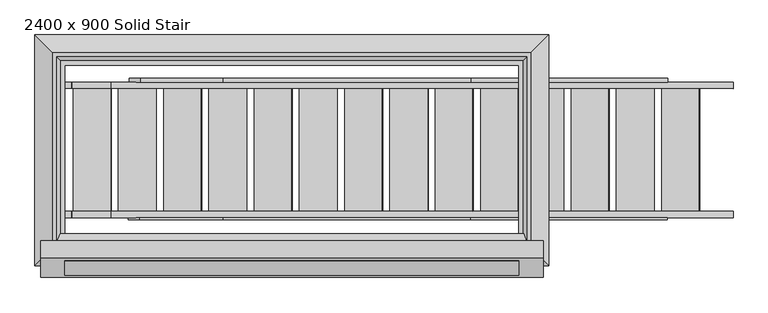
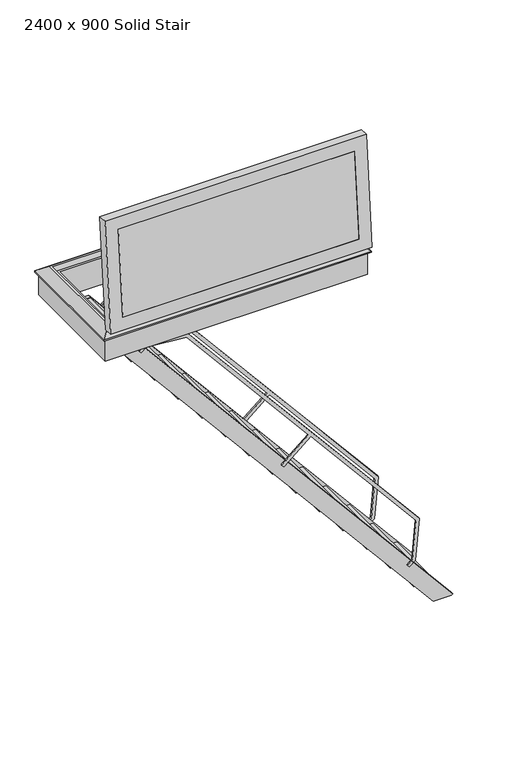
"""IFC4 building model written with IfcOpenShell, lengths in millimetres: proxy geometry, 5_Topaccess_dakluik_2400x900_Staka : 2400 x 900 Solid Stair."""

from ifc_helpers import new_model, si_unit, point, frame, frame_2d, origin, place, context, project, spatial, polyline, circle_curve, trimmed, segment, composite_curve, outline, extrude, faceted_brep, source, transform, mapped, element, save


def proxy_2400_x_900_solid_stair_9e12e95f(model_context):
    return source(origin(), model_context, "Body", "SolidModel", [
        extrude(outline(polyline([(-3725.9037973, 828.6273524), (-3725.9037973, 628.6273524), (-3745.8276912, 628.6273524), (-3745.8276912, 830.3704673), (-3725.9037973, 828.6273524)])), frame((0.0, -88.1671208, 0.0), z_axis=(0.0, 1.0, 0.0), x_axis=(0.0, 0.0, 1.0)), (0.0, 0.0, 1.0), 650.0),
        extrude(outline(polyline([(-3439.882935, 588.6273524), (-3439.882935, 388.6273524), (-3459.806829, 388.6273524), (-3459.806829, 590.3704673), (-3439.882935, 588.6273524)])), frame((0.0, -88.1671208, 0.0), z_axis=(0.0, 1.0, 0.0), x_axis=(0.0, 0.0, 1.0)), (0.0, 0.0, 1.0), 650.0),
        extrude(outline(polyline([(-3153.8620728, 348.6273524), (-3153.8620728, 148.6273524), (-3173.7859668, 148.6273524), (-3173.7859668, 350.3704673), (-3153.8620728, 348.6273524)])), frame((0.0, -88.1671208, 0.0), z_axis=(0.0, 1.0, 0.0), x_axis=(0.0, 0.0, 1.0)), (0.0, 0.0, 1.0), 650.0),
        extrude(outline(polyline([(-2867.8412106, 108.6273524), (-2867.8412106, -91.3726476), (-2887.7651046, -91.3726476), (-2887.7651046, 110.3704673), (-2867.8412106, 108.6273524)])), frame((0.0, -88.1671208, 0.0), z_axis=(0.0, 1.0, 0.0), x_axis=(0.0, 0.0, 1.0)), (0.0, 0.0, 1.0), 650.0),
        extrude(outline(polyline([(-2581.8203484, -131.3726476), (-2581.8203484, -331.3726476), (-2601.7442423, -331.3726476), (-2601.7442423, -129.6295327), (-2581.8203484, -131.3726476)])), frame((0.0, -88.1671208, 0.0), z_axis=(0.0, 1.0, 0.0), x_axis=(0.0, 0.0, 1.0)), (0.0, 0.0, 1.0), 650.0),
        extrude(outline(polyline([(-2295.7994862, -371.3726476), (-2295.7994862, -571.3726476), (-2315.7233801, -571.3726476), (-2315.7233801, -369.6295327), (-2295.7994862, -371.3726476)])), frame((0.0, -88.1671208, 0.0), z_axis=(0.0, 1.0, 0.0), x_axis=(0.0, 0.0, 1.0)), (0.0, 0.0, 1.0), 650.0),
        extrude(outline(polyline([(-2009.7786239, -611.3726476), (-2009.7786239, -811.3726476), (-2029.7025179, -811.3726476), (-2029.7025179, -609.6295327), (-2009.7786239, -611.3726476)])), frame((0.0, -88.1671208, 0.0), z_axis=(0.0, 1.0, 0.0), x_axis=(0.0, 0.0, 1.0)), (0.0, 0.0, 1.0), 650.0),
        extrude(outline(polyline([(-1723.7577617, -851.3726476), (-1723.7577617, -1051.3726476), (-1743.6816557, -1051.3726476), (-1743.6816557, -849.6295327), (-1723.7577617, -851.3726476)])), frame((0.0, -88.1671208, 0.0), z_axis=(0.0, 1.0, 0.0), x_axis=(0.0, 0.0, 1.0)), (0.0, 0.0, 1.0), 650.0),
        extrude(outline(polyline([(-7.6325884, -2291.3726476), (-7.6325884, -2491.3726476), (-27.5564823, -2491.3726476), (-27.5564823, -2289.6295327), (-7.6325884, -2291.3726476)])), frame((0.0, -88.1671208, 0.0), z_axis=(0.0, 1.0, 0.0), x_axis=(0.0, 0.0, 1.0)), (0.0, 0.0, 1.0), 650.0),
        extrude(outline(polyline([(-1437.7368995, -1091.3726476), (-1437.7368995, -1291.3726476), (-1457.6607934, -1291.3726476), (-1457.6607934, -1089.6295327), (-1437.7368995, -1091.3726476)])), frame((0.0, -88.1671208, 0.0), z_axis=(0.0, 1.0, 0.0), x_axis=(0.0, 0.0, 1.0)), (0.0, 0.0, 1.0), 650.0),
        extrude(outline(polyline([(-1151.7160373, -1331.3726476), (-1151.7160373, -1531.3726476), (-1171.6399312, -1531.3726476), (-1171.6399312, -1329.6295327), (-1151.7160373, -1331.3726476)])), frame((0.0, -88.1671208, 0.0), z_axis=(0.0, 1.0, 0.0), x_axis=(0.0, 0.0, 1.0)), (0.0, 0.0, 1.0), 650.0),
        extrude(outline(polyline([(-865.695175, -1571.3726476), (-865.695175, -1771.3726476), (-885.619069, -1771.3726476), (-885.619069, -1569.6295327), (-865.695175, -1571.3726476)])), frame((0.0, -88.1671208, 0.0), z_axis=(0.0, 1.0, 0.0), x_axis=(0.0, 0.0, 1.0)), (0.0, 0.0, 1.0), 650.0),
        extrude(outline(polyline([(-579.6743128, -1811.3726476), (-579.6743128, -2011.3726476), (-599.5982068, -2011.3726476), (-599.5982068, -1809.6295327), (-579.6743128, -1811.3726476)])), frame((0.0, -88.1671208, 0.0), z_axis=(0.0, 1.0, 0.0), x_axis=(0.0, 0.0, 1.0)), (0.0, 0.0, 1.0), 650.0),
        extrude(outline(polyline([(-293.6534506, -2051.3726476), (-293.6534506, -2251.3726476), (-313.5773446, -2251.3726476), (-313.5773446, -2049.6295327), (-293.6534506, -2051.3726476)])), frame((0.0, -88.1671208, 0.0), z_axis=(0.0, 1.0, 0.0), x_axis=(0.0, 0.0, 1.0)), (0.0, 0.0, 1.0), 650.0),
        extrude(outline(polyline([(-141.0692891, -2136.6086774), (-192.4922979, -2197.8922329), (-217.7717645, -2176.6802418), (-175.1350501, -2125.8677842), (-211.100905, -1714.7761825), (-1694.5137463, -470.0450144), (-1924.7133341, -744.3862003), (-1949.9928007, -723.1742091), (-1719.7932129, -448.8330233), (-1763.360471, -412.2757531), (-2997.7115931, 623.4678182), (-3408.8031949, 587.5019634), (-3451.4399092, 536.6895059), (-3476.7193759, 557.901497), (-3425.2963671, 619.1850524), (-2986.9706999, 657.5335792), (-1742.1484799, -386.9962865), (-179.4178159, -1698.2830103), (-141.0692891, -2136.6086774)])), frame((0.0, -134.5276803, 0.0), z_axis=(0.0, 1.0, 0.0), x_axis=(0.0, 0.0, 1.0)), (0.0, 0.0, 1.0), 12.3605595),
        extrude(outline(polyline([(-137.855351, -2132.7784552), (-189.2783598, -2194.0620107), (-214.5578264, -2172.8500195), (-171.9211121, -2122.037562), (-207.8869669, -1710.9459603), (-1691.2998082, -466.2147922), (-1921.4993961, -740.555978), (-1946.7788627, -719.3439869), (-1716.5792749, -445.0028011), (-1760.1465329, -408.4455309), (-2994.4976551, 627.2980404), (-3405.5892568, 591.3321856), (-3448.2259712, 540.5197281), (-3473.5054378, 561.7317192), (-3422.082429, 623.0152746), (-2983.7567619, 661.3638014), (-1738.9345418, -383.1660643), (-176.2038779, -1694.4527881), (-137.855351, -2132.7784552)])), frame((0.0, 595.8328792, 0.0), z_axis=(0.0, 1.0, 0.0), x_axis=(0.0, 0.0, 1.0)), (0.0, 0.0, 1.0), 19.5664198),
        extrude(outline(polyline([(-35.0743917, -2468.3462405), (-0.0119954, -2497.7670843), (0.0, -2531.2697623), (-35.0518623, -2531.2697623), (-35.0743917, -2468.3462405)])), frame((0.0, 561.8328792, 0.0), z_axis=(0.0, 1.0, 0.0), x_axis=(0.0, 0.0, 1.0)), (0.0, 0.0, 1.0), 34.0),
        extrude(outline(polyline([(-0.0119954, -2497.7670843), (0.0, -2531.2697623), (-35.0518623, -2531.2697623), (-35.0743917, -2468.3462405), (-0.0119954, -2497.7670843)])), frame((0.0, -122.1671208, 0.0), z_axis=(0.0, 1.0, 0.0), x_axis=(0.0, 0.0, 1.0)), (0.0, 0.0, 1.0), 34.0),
        extrude(outline(polyline([(-3928.3534543, 1007.3679513), (-0.0119954, -2288.901918), (-0.0119954, -2497.7670843), (-3941.8407861, 809.8200001), (-3941.8407861, 991.2943753), (-3928.3534543, 1007.3679513)])), frame((0.0, -122.1671208, 0.0), z_axis=(0.0, 1.0, 0.0), x_axis=(0.0, 0.0, 1.0)), (0.0, 0.0, 1.0), 34.0),
        extrude(outline(polyline([(-3928.3534543, 1007.3679513), (-0.0119954, -2288.901918), (-0.0119954, -2497.7670843), (-3941.8407861, 809.8200001), (-3941.8407861, 991.2943753), (-3928.3534543, 1007.3679513)])), frame((0.0, 561.8328792, 0.0), z_axis=(0.0, 1.0, 0.0), x_axis=(0.0, 0.0, 1.0)), (0.0, 0.0, 1.0), 34.0),
        extrude(outline(composite_curve([segment(polyline([(-351.5444342, 276.0067762), (-361.4812985, 288.4278565)]), True, "CONTINUOUS"), segment(trimmed(circle_curve(frame_2d((-355.3350725, 291.1218996)), 6.7107348), [point((-361.4812985, 288.4278565))], [point((-361.9072794, 292.478387))], False, "CARTESIAN"), True, "CONTINUOUS"), segment(polyline([(-361.9072794, 292.478387), (-354.7140457, 338.0585674)]), True, "CONTINUOUS"), segment(trimmed(circle_curve(frame_2d((-346.9892475, 335.7323444)), 8.0674544), [point((-354.7140457, 338.0585674))], [point((-340.2418528, 331.310073))], False, "CARTESIAN"), True, "CONTINUOUS"), segment(trimmed(circle_curve(frame_2d((-336.7434698, 329.4859796)), 3.9453771), [point((-340.2418528, 331.310073))], [point((-338.5957121, 326.0024185))], True, "CARTESIAN"), True, "CONTINUOUS"), segment(polyline([(-338.5957121, 326.0024185), (-304.6923057, 313.4884791), (-351.5444342, 276.0067762)]), True, "CONTINUOUS")], self_intersect=False)), frame((-2421.3022237, 0.0, 0.0), z_axis=(1.0, 0.0, 0.0), x_axis=(0.0, 1.0, 0.0)), (0.0, 0.0, 1.0), 36.0838433),
        extrude(outline(composite_curve([segment(polyline([(-304.6923057, 313.4884791), (-351.5444342, 276.0067762), (-361.4812985, 288.4278565)]), True, "CONTINUOUS"), segment(trimmed(circle_curve(frame_2d((-355.3350725, 291.1218996)), 6.7107348), [point((-361.4812985, 288.4278565))], [point((-361.9072794, 292.478387))], False, "CARTESIAN"), True, "CONTINUOUS"), segment(polyline([(-361.9072794, 292.478387), (-354.7140457, 338.0585674)]), True, "CONTINUOUS"), segment(trimmed(circle_curve(frame_2d((-346.9892475, 335.7323444)), 8.0674544), [point((-354.7140457, 338.0585674))], [point((-340.2418528, 331.310073))], False, "CARTESIAN"), True, "CONTINUOUS"), segment(trimmed(circle_curve(frame_2d((-336.7434698, 329.4859796)), 3.9453771), [point((-340.2418528, 331.310073))], [point((-338.5957121, 326.0024185))], True, "CARTESIAN"), True, "CONTINUOUS"), segment(polyline([(-338.5957121, 326.0024185), (-304.6923057, 313.4884791)]), True, "CONTINUOUS")], self_intersect=False)), frame((-264.7004682, 0.0, 0.0), z_axis=(1.0, 0.0, 0.0), x_axis=(0.0, 1.0, 0.0)), (0.0, 0.0, 1.0), 38.5717555),
        faceted_brep([(-61.2697623, 753.4470955, 328.0), (30.7302377, 845.4470955, 254.4), (-2693.2697623, 845.4470955, 254.4), (-2601.2697623, 753.4470955, 328.0), (-105.2697623, 709.4470955, 282.0), (-85.7439208, 728.9729371, 328.0), (-2576.7956039, 728.9729371, 328.0), (-2557.2697623, 709.4470955, 282.0), (-131.2697623, 683.4470955, 0.0), (-131.2697623, 683.4470955, 282.0), (-2531.2697623, 683.4470955, 282.0), (-2531.2697623, 683.4470955, 0.0), (4.7302377, 819.4470955, 240.0), (4.7302377, 819.4470955, 0.0), (-2667.2697623, 819.4470955, 0.0), (-2667.2697623, 819.4470955, 240.0), (30.7302377, 845.4470955, 240.0), (-2693.2697623, 845.4470955, 240.0), (-2693.2697623, -378.5529045, 254.4), (-2601.2697623, -286.5529045, 328.0), (-2576.7956039, -262.078746, 328.0), (-2557.2697623, -242.5529045, 282.0), (-2531.2697623, -216.5529045, 282.0), (-2531.2697623, -216.5529045, 0.0), (-2667.2697623, -352.5529045, 0.0), (-2667.2697623, -352.5529045, 240.0), (-2693.2697623, -378.5529045, 240.0), (30.7302377, -378.5529045, 254.4), (-61.2697623, -286.5529045, 328.0), (-85.7439208, -262.078746, 328.0), (-105.2697623, -242.5529045, 282.0), (-131.2697623, -216.5529045, 282.0), (-131.2697623, -216.5529045, 0.0), (4.7302377, -352.5529045, 0.0), (4.7302377, -352.5529045, 240.0), (30.7302377, -378.5529045, 240.0)], [[[0, 1, 2, 3]], [[4, 5, 6, 7]], [[8, 9, 10, 11]], [[12, 13, 14, 15]], [[1, 16, 17, 2]], [[3, 2, 18, 19]], [[7, 6, 20, 21]], [[11, 10, 22, 23]], [[15, 14, 24, 25]], [[2, 17, 26, 18]], [[19, 18, 27, 28]], [[21, 20, 29, 30]], [[23, 22, 31, 32]], [[25, 24, 33, 34]], [[18, 26, 35, 27]], [[28, 27, 1, 0]], [[3, 19, 28, 0], [5, 29, 20, 6]], [[30, 29, 5, 4]], [[7, 21, 30, 4], [9, 31, 22, 10]], [[32, 31, 9, 8]], [[13, 33, 24, 14], [11, 23, 32, 8]], [[34, 33, 13, 12]], [[16, 35, 26, 17], [15, 25, 34, 12]], [[27, 35, 16, 1]]]),
        extrude(outline(polyline([(0.0, -2405.7), (0.0, 0.0), (139.4, 0.0), (139.4, -2405.7), (0.0, -2405.7)])), frame((-2533.9725908, -428.8183427, 470.0146001), z_axis=(0.0, 0.08715574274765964, 0.9961946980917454), x_axis=(0.0, 0.9961946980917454, -0.08715574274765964)), (0.0, 0.0, 1.0), 901.1),
        faceted_brep([(-128.2725908, -211.412762, 1355.536132), (-128.2725908, -350.2823029, 1367.6856426), (-2533.9725908, -350.2823029, 1367.6856426), (-2533.9725908, -211.412762, 1355.536132), (-85.2725908, -253.8884991, 1402.4165305), (-102.8725908, -209.1990061, 1380.8394774), (-2559.3725908, -209.1990061, 1380.8394774), (-2576.9725908, -253.8884991, 1402.4165305), (0.7274092, -339.0392121, 1496.1947586), (0.7274092, -246.3931052, 1488.0892746), (-2662.9725908, -246.3931052, 1488.0892746), (-2662.9725908, -339.0392121, 1496.1947586), (-2533.9725908, -428.8183427, 470.0146001), (-2533.9725908, -289.9488018, 457.8650896), (-2559.3725908, -292.1625577, 432.5617443), (-2576.9725908, -339.9199327, 419.072744), (-2662.9725908, -347.4153266, 333.4), (-2662.9725908, -440.0614335, 341.5054841), (-128.2725908, -428.8183427, 470.0146001), (-128.2725908, -289.9488018, 457.8650896), (-102.8725908, -292.1625577, 432.5617443), (-85.2725908, -339.9199327, 419.072744), (0.7274092, -347.4153266, 333.4), (0.7274092, -440.0614335, 341.5054841)], [[[0, 1, 2, 3]], [[4, 5, 6, 7]], [[8, 9, 10, 11]], [[3, 2, 12, 13]], [[7, 6, 14, 15]], [[11, 10, 16, 17]], [[13, 12, 18, 19]], [[15, 14, 20, 21]], [[17, 16, 22, 23]], [[19, 18, 1, 0]], [[5, 20, 14, 6], [3, 13, 19, 0]], [[21, 20, 5, 4]], [[9, 22, 16, 10], [7, 15, 21, 4]], [[23, 22, 9, 8]], [[11, 17, 23, 8], [1, 18, 12, 2]]]),
    ])


if __name__ == "__main__":
    model = new_model("IFC4")
    model_context = context("Model", 3, world=origin())
    ifc_project = project(units=[si_unit("LENGTHUNIT", "METRE", prefix="MILLI")], contexts=[model_context])
    site = spatial("IfcSite", under=ifc_project)
    building = spatial("IfcBuilding", under=site)
    placement = place(None, origin())
    proxy_2400_x_900_solid_stair_shape = proxy_2400_x_900_solid_stair_9e12e95f(model_context)
    element("IfcBuildingElementProxy", 1, Name="5_Topaccess_dakluik_2400x900_Staka : 2400 x 900 Solid Stair", ObjectType="5_Topaccess_dakluik_2400x900_Staka : 2400 x 900 Solid Stair", at=placement, inside=building, context=model_context, shape_type="MappedRepresentation", body=[
        mapped(proxy_2400_x_900_solid_stair_shape, transform((0.0, 0.0, 0.0), x_axis=(1.0, 0.0, 0.0), y_axis=(0.0, 1.0, 0.0), z_axis=(0.0, 0.0, 1.0))),
    ])
    save(model, "model.ifc")
